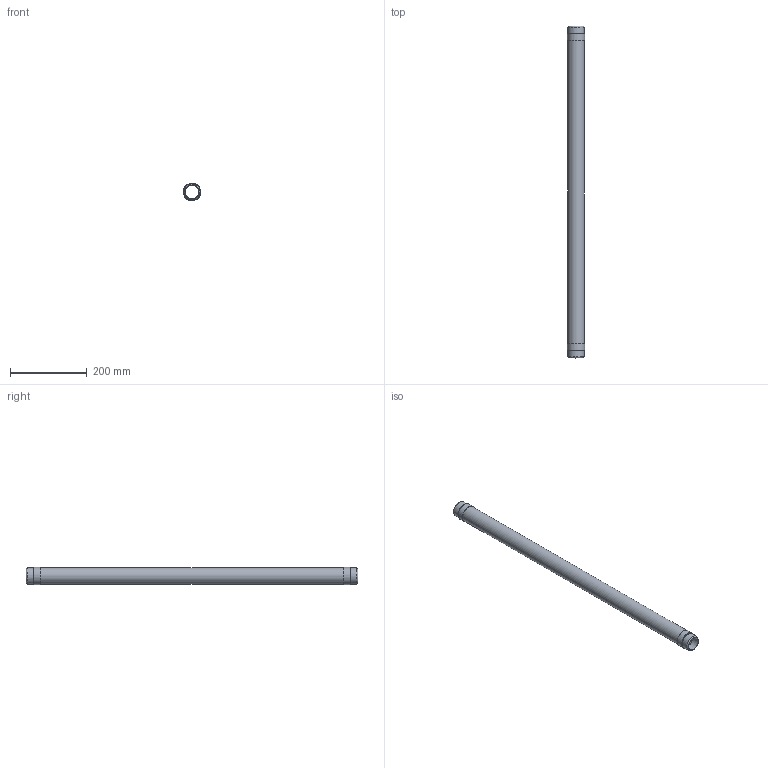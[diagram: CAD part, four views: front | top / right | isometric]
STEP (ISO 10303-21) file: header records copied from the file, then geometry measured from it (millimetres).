
FILE_DESCRIPTION(/* description */ (''),/* implementation_level */ '2;1');
FILE_NAME(/* name */ 'C:\001_Work\Designs\CSAWN\CSAWN-1.25x34.stp',/* time_stamp */ '2016-06-04T16:58:28-04:00',/* author */ ('rramoutar'),/* organization */ ('Mason Industries Inc.'),/* preprocessor_version */ 'ST-DEVELOPER v15.6',/* originating_system */ 'Autodesk Inventor 2015',/* authorisation */ '');
FILE_SCHEMA (('CONFIG_CONTROL_DESIGN'));
Length unit declared in the file: inch
Products named in the file (1): CSAWN-1.25x34
Bounding box: 45.14 x 863.6 x 45.14 mm (x, y, z)
Volume: 55783.8 mm3; surface area: 240821.3 mm2
Topology: 5 solids, 5 shells, 24 faces, 40 edges, 26 vertices
Faces by surface type: cylinder 10, plane 10, cone 4
Full cylindrical faces by diameter (mm): 35.052 x2, 42.164 x3, 42.774 x3, 45.155 x2
Entity records: 564 total; most frequent: DIRECTION 98, CARTESIAN_POINT 73, AXIS2_PLACEMENT_3D 49, EDGE_LOOP 48, ORIENTED_EDGE 48, STYLED_ITEM 29, FACE_BOUND 24, FACE_OUTER_BOUND 24
